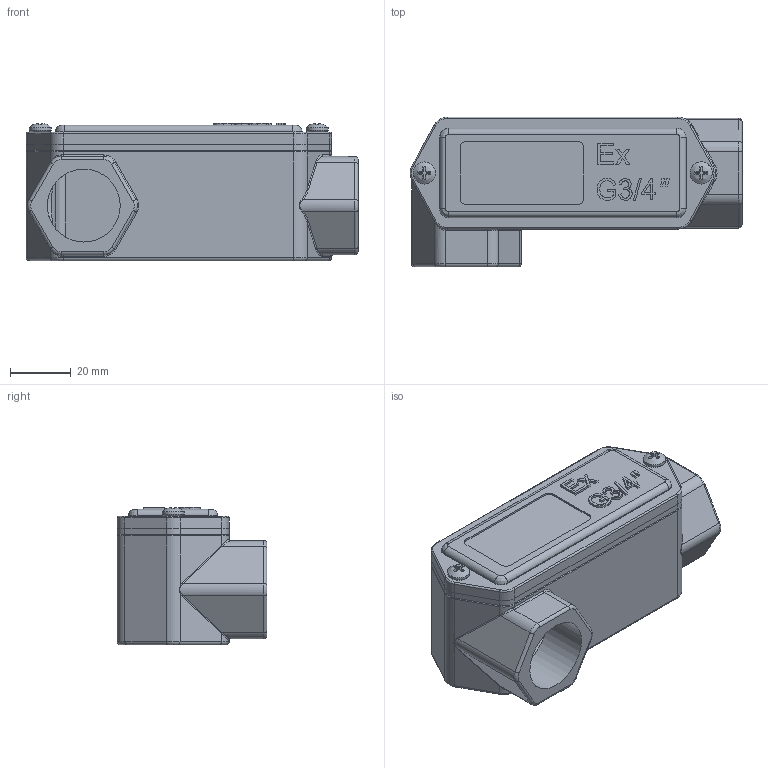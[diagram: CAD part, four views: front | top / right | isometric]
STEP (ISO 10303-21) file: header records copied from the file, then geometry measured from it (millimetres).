
FILE_DESCRIPTION((''),'2;1');
FILE_NAME('D:\WORKS\Чертежи\ТЗ\09.24\111154\СКВЕ-УЛ2_3d.stp','2024-09-12T09:17:28',('t.v.ogurnaya'),(''),'Autodesk Inventor 2012','Autodesk Inventor 2012','');
FILE_SCHEMA(('AUTOMOTIVE_DESIGN { 1 0 10303 214 1 1 1 1 }'));
Length unit declared in the file: millimetre
Products named in the file (1): СКВЕ-УЛ2_Внешний контур_1
Bounding box: 109.75 x 49.5 x 45.5 mm (x, y, z)
Surface area: 43898.9 mm2 (no closed solid volume)
Topology: 0 solids, 5 shells, 397 faces, 999 edges, 626 vertices
Faces by surface type: plane 178, cylinder 121, bspline 50, torus 44, cone 4
Full cylindrical faces by diameter (mm): 3.2 x1, 3.242 x1, 3.9 x2, 4.5 x4, 7.3 x2, 24.1 x1, 24.117 x1
Entity records: 12975 total; most frequent: CARTESIAN_POINT 3240, ORIENTED_EDGE 1936, DIRECTION 1889, EDGE_CURVE 968, AXIS2_PLACEMENT_3D 669, VERTEX_POINT 615, VECTOR 551, LINE 551
